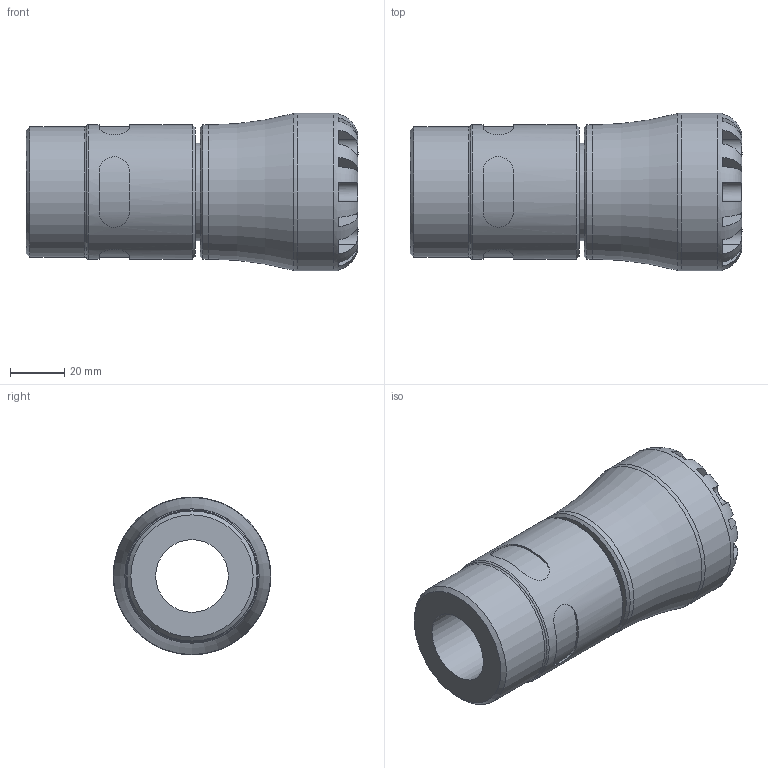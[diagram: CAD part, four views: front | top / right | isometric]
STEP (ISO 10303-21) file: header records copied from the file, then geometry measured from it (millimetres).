
FILE_DESCRIPTION(/* description */ ('PLASSON MALE ADAPTOR 32X1.1/2" SERIES 1'),/* implementation_level */ '2;1');
FILE_NAME(/* name */ 'C:\Dropbox\KIMPROJECTS-Inventor 2019\99-16-3568-Processing\S1\10N20\stp\10N200032015_10N2G0032015.stp',/* time_stamp */ '2024-03-12T13:19:32+01:00',/* author */ ('KIM'),/* organization */ (''),/* preprocessor_version */ 'ST-DEVELOPER v17.2',/* originating_system */ 'Autodesk Inventor 2019',/* authorisation */ '');
FILE_SCHEMA (('AUTOMOTIVE_DESIGN { 1 0 10303 214 3 1 1 }'));
Length unit declared in the file: millimetre
Products named in the file (1): 10N200032015_10N2G0032015
Bounding box: 122 x 58 x 58 mm (x, y, z)
Volume: 164258.4 mm3; surface area: 36584.6 mm2
Topology: 1 solids, 1 shells, 105 faces, 274 edges, 177 vertices
Faces by surface type: plane 61, cylinder 35, torus 5, cone 4
Full cylindrical faces by diameter (mm): 26.667 x1, 32 x1, 36 x1, 47.803 x1, 49.3 x2, 58 x1
Entity records: 4164 total; most frequent: CARTESIAN_POINT 1479, ORIENTED_EDGE 548, DIRECTION 540, EDGE_CURVE 274, AXIS2_PLACEMENT_3D 224, VERTEX_POINT 177, CIRCLE 118, EDGE_LOOP 113
